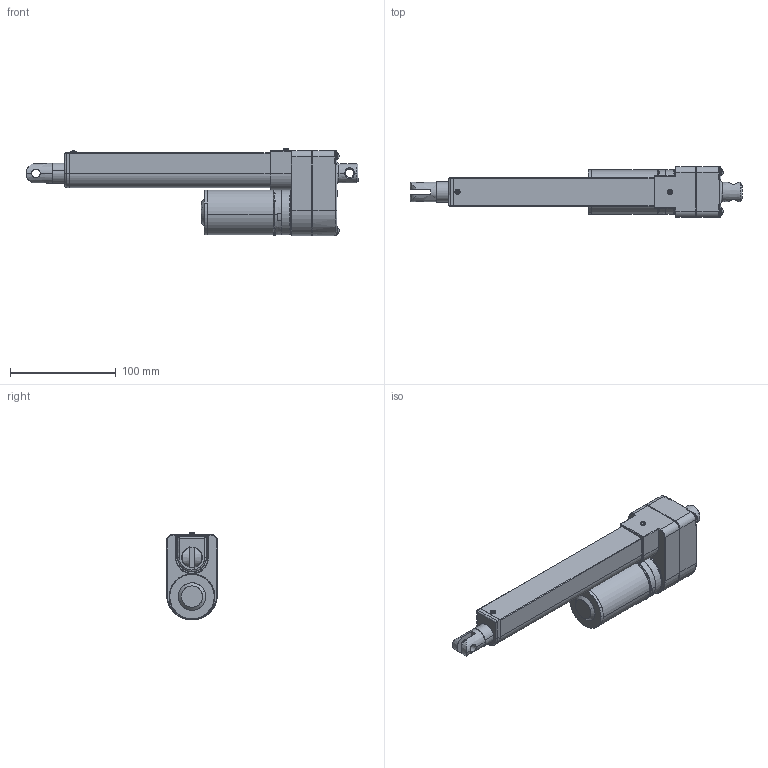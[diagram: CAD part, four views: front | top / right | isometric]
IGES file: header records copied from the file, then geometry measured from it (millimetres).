
Start section: SolidWorks IGES file using analytic representation for surfaces
Global section: file name: S:\W110B\La_3D\LAS2\LAS2ｲﾕｦXｹﾏ_Stroke=150.IGS; native system: SolidWorks 2009; preprocessor: SolidWorks 2009; author: fang; date: 110518.171129; units: millimetre
Bounding box: 313.4 x 48 x 82.79 mm (x, y, z)
Surface area: 81332.2 mm2 (no closed solid volume)
Topology: 0 solids, 0 shells, 403 faces, 6222 edges, 6206 vertices
Faces by surface type: bspline 286, revolution 117
